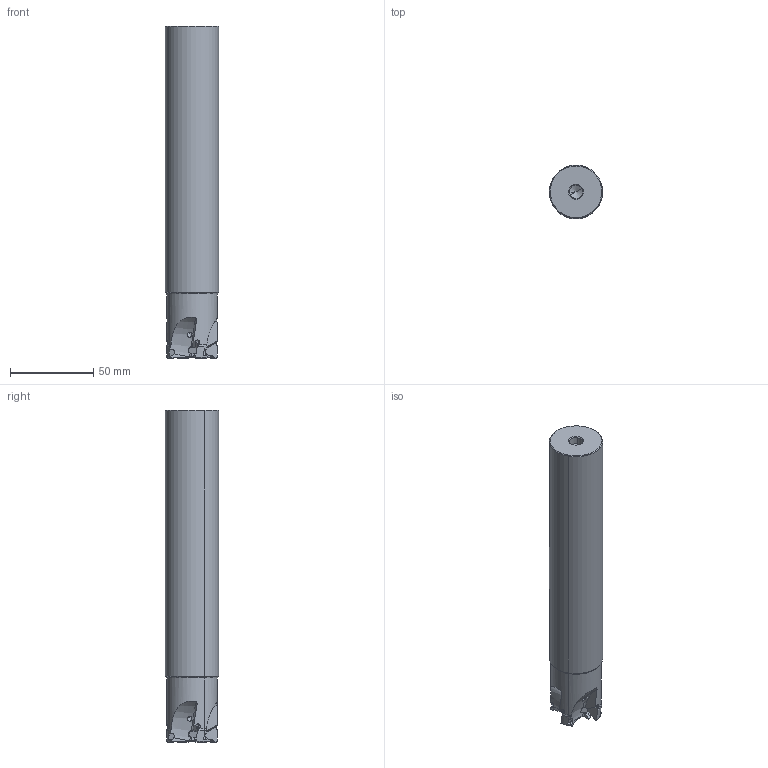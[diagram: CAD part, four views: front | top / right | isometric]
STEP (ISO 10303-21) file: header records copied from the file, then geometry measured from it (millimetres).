
FILE_DESCRIPTION(('CATIA V5 STEP','CAx-IF Rec.Pracs.--- Model Styling and Organization---1.2---2011-12-15'),'2;1');
FILE_NAME('N:\data\isr\design\special1\users\NATALY_B\Tal\NPA\3107039\HM390 ETP D32-4-C32-10-B.stp','2016-07-13T11:04:26+00:00',('none'),('none'),'CATIA Version 5 Release 21 SP 5 (IN-10)','CATIA V5 STEP AP214','none');
FILE_SCHEMA(('AUTOMOTIVE_DESIGN { 1 0 10303 214 1 1 1 1 }'));
Length unit declared in the file: millimetre
Products named in the file (1): HM390 ETP D32-4-C32-10-B
Bounding box: 31.99 x 31.99 x 199.4 mm (x, y, z)
Volume: 150381.7 mm3; surface area: 22027.9 mm2
Topology: 1 solids, 1 shells, 182 faces, 524 edges, 335 vertices
Faces by surface type: plane 74, torus 34, cylinder 34, cone 20, sphere 16, revolution 4
Entity records: 6405 total; most frequent: CARTESIAN_POINT 2350, ORIENTED_EDGE 1020, DIRECTION 546, EDGE_CURVE 510, VERTEX_POINT 335, AXIS2_PLACEMENT_3D 252, B_SPLINE_CURVE_WITH_KNOTS 234, EDGE_LOOP 187
